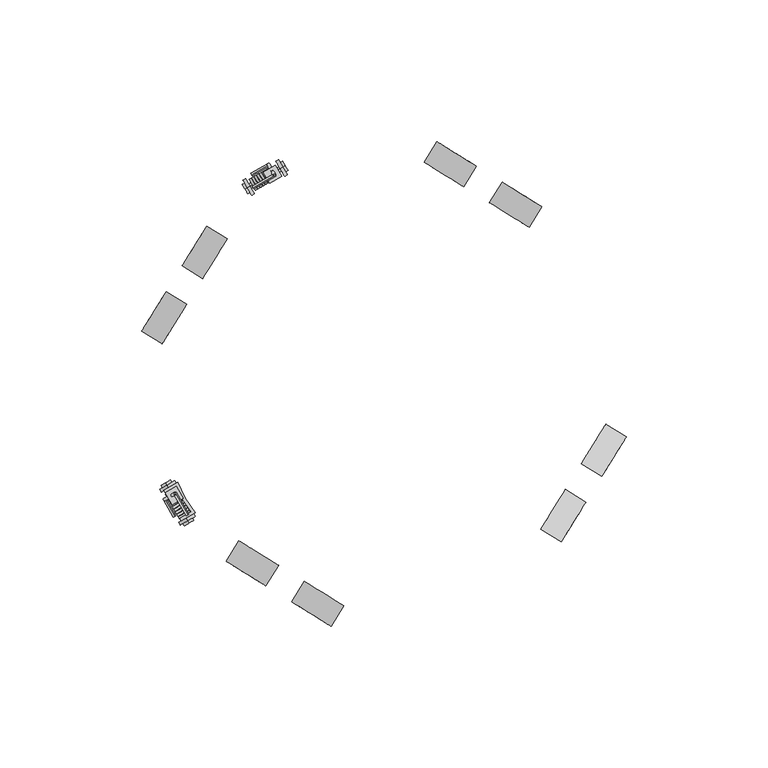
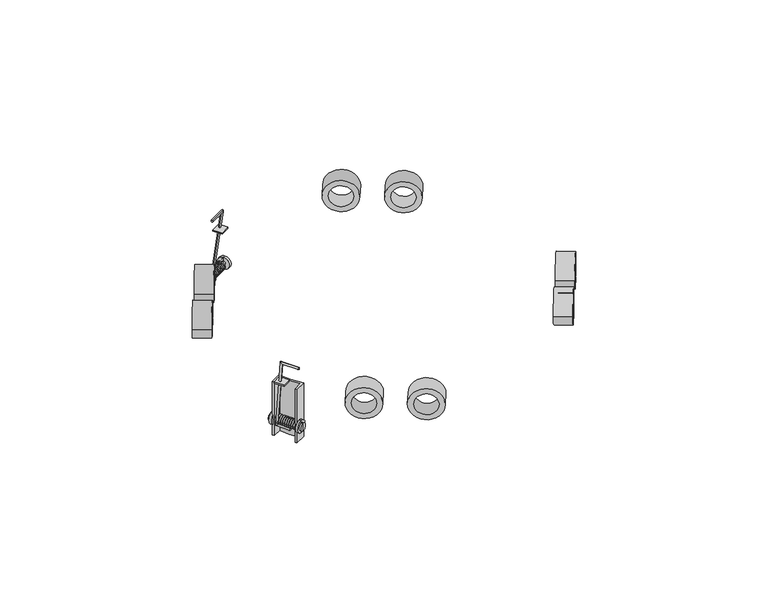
"""IFC4 building model written with IfcOpenShell, lengths in millimetres: proxy geometry, 230208 BIM Data_CSE 56T VA : CSE 56T VA."""

from ifc_helpers import new_model, si_unit, point, frame, frame_2d, origin, place, context, project, spatial, polyline, circle_curve, ellipse_curve, trimmed, segment, composite_curve, outline, extrude, source, transform, mapped, element, save
from ifc_brep_helpers import plane_surface, cylinder_surface, advanced_brep


def communication_devices_72cecc17(model_context):
    return source(origin(), model_context, "Body", "SolidModel", [
        extrude(outline(composite_curve([segment(trimmed(circle_curve(frame_2d((0.0, -8.2290649)), 8.2290649), [point((0.0, -16.4581297))], [point((0.0, 0.0))], False, "CARTESIAN"), True, "CONTINUOUS"), segment(trimmed(circle_curve(frame_2d((0.0, -8.2290649)), 8.2290649), [point((0.0, 0.0))], [point((0.0, -16.4581297))], False, "CARTESIAN"), True, "CONTINUOUS")], self_intersect=False), holes=[composite_curve([segment(trimmed(circle_curve(frame_2d((0.0, -8.2290649)), 5.4906275), [point((0.0, -13.7196924))], [point((0.0, -2.7384374))], True, "CARTESIAN"), True, "CONTINUOUS"), segment(trimmed(circle_curve(frame_2d((0.0, -8.2290649)), 5.4906275), [point((0.0, -2.7384374))], [point((0.0, -13.7196924))], True, "CARTESIAN"), True, "CONTINUOUS")], self_intersect=False)]), frame((37.2328131, 64.053088, 30.2701659), z_axis=(0.5266312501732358, 0.8500938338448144, 0.0), x_axis=(0.0, 0.0, -1.0)), (0.0, 0.0, 1.0), 8.4750681),
        extrude(outline(composite_curve([segment(trimmed(circle_curve(frame_2d((0.0, 18.9214838)), 8.2290649), [point((0.0, 10.692419))], [point((0.0, 27.1505488))], False, "CARTESIAN"), True, "CONTINUOUS"), segment(trimmed(circle_curve(frame_2d((0.0, 18.9214838)), 8.2290649), [point((0.0, 27.1505488))], [point((0.0, 10.692419))], False, "CARTESIAN"), True, "CONTINUOUS")], self_intersect=False), holes=[composite_curve([segment(trimmed(circle_curve(frame_2d((0.0, 18.9214838)), 5.4906275), [point((0.0, 13.4308564))], [point((0.0, 24.4121114))], True, "CARTESIAN"), True, "CONTINUOUS"), segment(trimmed(circle_curve(frame_2d((0.0, 18.9214838)), 5.4906275), [point((0.0, 24.4121114))], [point((0.0, 13.4308564))], True, "CARTESIAN"), True, "CONTINUOUS")], self_intersect=False)]), frame((37.2328131, 64.053088, 30.2701659), z_axis=(0.5266312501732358, 0.8500938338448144, 0.0), x_axis=(0.0, 0.0, -1.0)), (0.0, 0.0, 1.0), 8.4750681),
        extrude(outline(composite_curve([segment(trimmed(circle_curve(frame_2d((0.0, -8.2290649)), 8.2290649), [point((0.0, -16.4581298))], [point((0.0, 0.0))], False, "CARTESIAN"), True, "CONTINUOUS"), segment(trimmed(circle_curve(frame_2d((0.0, -8.2290649)), 8.2290649), [point((0.0, 0.0))], [point((0.0, -16.4581298))], False, "CARTESIAN"), True, "CONTINUOUS")], self_intersect=False), holes=[composite_curve([segment(trimmed(circle_curve(frame_2d((0.0, -8.2290649)), 5.4906275), [point((0.0, -13.7196924))], [point((0.0, -2.7384374))], True, "CARTESIAN"), True, "CONTINUOUS"), segment(trimmed(circle_curve(frame_2d((0.0, -8.2290649)), 5.4906275), [point((0.0, -2.7384374))], [point((0.0, -13.7196924))], True, "CARTESIAN"), True, "CONTINUOUS")], self_intersect=False)]), frame((71.2576912, -41.6960488, 30.2701659), z_axis=(-0.8500938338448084, 0.5266312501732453, 0.0), x_axis=(0.0, 0.0, 1.0)), (0.0, 0.0, 1.0), 8.4750681),
        extrude(outline(composite_curve([segment(trimmed(circle_curve(frame_2d((0.0, 18.9214838)), 8.2290649), [point((0.0, 10.6924189))], [point((0.0, 27.1505488))], False, "CARTESIAN"), True, "CONTINUOUS"), segment(trimmed(circle_curve(frame_2d((0.0, 18.9214838)), 8.2290649), [point((0.0, 27.1505488))], [point((0.0, 10.6924189))], False, "CARTESIAN"), True, "CONTINUOUS")], self_intersect=False), holes=[composite_curve([segment(trimmed(circle_curve(frame_2d((0.0, 18.9214838)), 5.4906275), [point((0.0, 13.4308564))], [point((0.0, 24.4121113))], True, "CARTESIAN"), True, "CONTINUOUS"), segment(trimmed(circle_curve(frame_2d((0.0, 18.9214838)), 5.4906275), [point((0.0, 24.4121113))], [point((0.0, 13.4308564))], True, "CARTESIAN"), True, "CONTINUOUS")], self_intersect=False)]), frame((71.2576912, -41.6960488, 30.2701659), z_axis=(-0.8500938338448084, 0.5266312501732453, 0.0), x_axis=(0.0, 0.0, 1.0)), (0.0, 0.0, 1.0), 8.4750681),
        extrude(outline(composite_curve([segment(trimmed(circle_curve(frame_2d((0.0, -8.2290649)), 8.2290649), [point((0.0, -16.4581297))], [point((0.0, 0.0))], False, "CARTESIAN"), True, "CONTINUOUS"), segment(trimmed(circle_curve(frame_2d((0.0, -8.2290649)), 8.2290649), [point((0.0, 0.0))], [point((0.0, -16.4581297))], False, "CARTESIAN"), True, "CONTINUOUS")], self_intersect=False), holes=[composite_curve([segment(trimmed(circle_curve(frame_2d((0.0, -8.2290649)), 5.4906275), [point((0.0, -13.7196924))], [point((0.0, -2.7384374))], True, "CARTESIAN"), True, "CONTINUOUS"), segment(trimmed(circle_curve(frame_2d((0.0, -8.2290649)), 5.4906275), [point((0.0, -2.7384374))], [point((0.0, -13.7196924))], True, "CARTESIAN"), True, "CONTINUOUS")], self_intersect=False)]), frame((-64.053088, 37.2328131, 30.2701659), z_axis=(-0.8500938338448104, 0.5266312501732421, 0.0), x_axis=(0.0, 0.0, -1.0)), (0.0, 0.0, 1.0), 8.4750681),
        extrude(outline(composite_curve([segment(trimmed(circle_curve(frame_2d((0.0, 18.9214838)), 8.2290649), [point((0.0, 10.692419))], [point((0.0, 27.1505488))], False, "CARTESIAN"), True, "CONTINUOUS"), segment(trimmed(circle_curve(frame_2d((0.0, 18.9214838)), 8.2290649), [point((0.0, 27.1505488))], [point((0.0, 10.692419))], False, "CARTESIAN"), True, "CONTINUOUS")], self_intersect=False), holes=[composite_curve([segment(trimmed(circle_curve(frame_2d((0.0, 18.9214838)), 5.4906275), [point((0.0, 13.4308564))], [point((0.0, 24.4121114))], True, "CARTESIAN"), True, "CONTINUOUS"), segment(trimmed(circle_curve(frame_2d((0.0, 18.9214838)), 5.4906275), [point((0.0, 24.4121114))], [point((0.0, 13.4308564))], True, "CARTESIAN"), True, "CONTINUOUS")], self_intersect=False)]), frame((-64.053088, 37.2328131, 30.2701659), z_axis=(-0.8500938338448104, 0.5266312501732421, 0.0), x_axis=(0.0, 0.0, -1.0)), (0.0, 0.0, 1.0), 8.4750681),
        extrude(outline(composite_curve([segment(trimmed(circle_curve(frame_2d((0.0, -8.2290649)), 8.2290649), [point((0.0, -16.4581298))], [point((0.0, 0.0))], False, "CARTESIAN"), True, "CONTINUOUS"), segment(trimmed(circle_curve(frame_2d((0.0, -8.2290649)), 8.2290649), [point((0.0, 0.0))], [point((0.0, -16.4581298))], False, "CARTESIAN"), True, "CONTINUOUS")], self_intersect=False), holes=[composite_curve([segment(trimmed(circle_curve(frame_2d((0.0, -8.2290649)), 5.4906275), [point((0.0, -13.7196924))], [point((0.0, -2.7384374))], True, "CARTESIAN"), True, "CONTINUOUS"), segment(trimmed(circle_curve(frame_2d((0.0, -8.2290649)), 5.4906275), [point((0.0, -2.7384374))], [point((0.0, -13.7196924))], True, "CARTESIAN"), True, "CONTINUOUS")], self_intersect=False)]), frame((-41.6960488, -71.2576912, 30.2701659), z_axis=(0.526631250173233, 0.8500938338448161, 0.0), x_axis=(0.0, 0.0, 1.0)), (0.0, 0.0, 1.0), 8.4750681),
        extrude(outline(composite_curve([segment(trimmed(circle_curve(frame_2d((0.0, 18.9214838)), 8.2290649), [point((0.0, 10.6924189))], [point((0.0, 27.1505488))], False, "CARTESIAN"), True, "CONTINUOUS"), segment(trimmed(circle_curve(frame_2d((0.0, 18.9214838)), 8.2290649), [point((0.0, 27.1505488))], [point((0.0, 10.6924189))], False, "CARTESIAN"), True, "CONTINUOUS")], self_intersect=False), holes=[composite_curve([segment(trimmed(circle_curve(frame_2d((0.0, 18.9214838)), 5.4906275), [point((0.0, 13.4308564))], [point((0.0, 24.4121113))], True, "CARTESIAN"), True, "CONTINUOUS"), segment(trimmed(circle_curve(frame_2d((0.0, 18.9214838)), 5.4906275), [point((0.0, 24.4121113))], [point((0.0, 13.4308564))], True, "CARTESIAN"), True, "CONTINUOUS")], self_intersect=False)]), frame((-41.6960488, -71.2576912, 30.2701659), z_axis=(0.526631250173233, 0.8500938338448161, 0.0), x_axis=(0.0, 0.0, 1.0)), (0.0, 0.0, 1.0), 8.4750681),
        extrude(outline(polyline([(-74.7753419, -42.6612156), (-77.2753419, -38.3310886), (-73.3219581, -36.0486014), (-70.8219581, -40.3787284), (-74.7753419, -42.6612156)])), frame((0.0, 0.0, 33.4827769), z_axis=(0.0, 0.0, 1.0), x_axis=(1.0, 0.0, 0.0)), (0.0, 0.0, 1.0), 0.7602318),
        advanced_brep(
        [(-69.3327417, -46.1831034, 43.8165144), (-69.4504076, -46.2510379, 42.8257876), (-73.5606596, -39.1318727, 42.8257876), (-73.9429936, -38.1979129, 43.8165144), (-77.6682809, -40.3487085, 12.4502375), (-77.050615, -41.1467994, 13.4409643), (-73.9762993, -46.7434081, 12.4502375), (-73.8586334, -46.6754737, 13.4409643)],
        [
            (0, 1, circle_curve(frame((-69.3915747, -46.2170707, 43.321151), z_axis=(0.49999999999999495, -0.8660254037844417, 0.0), x_axis=(-0.11766592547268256, -0.06793445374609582, -0.9907268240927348)), 0.5)),
            (1, 0, circle_curve(frame((-69.3915747, -46.2170707, 43.321151), z_axis=(0.49999999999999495, -0.8660254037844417, 0.0), x_axis=(-0.11766592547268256, -0.06793445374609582, -0.9907268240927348)), 0.5)),
            (2, 3, ellipse_curve(frame((-73.7518266, -38.6648928, 43.321151), z_axis=(-0.4367557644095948, 0.5643355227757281, -0.700549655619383), x_axis=(-0.2703510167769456, 0.660409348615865, 0.7005496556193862)), 0.7071068, 0.5)),
            (3, 4),
            (4, 5, ellipse_curve(frame((-77.3594479, -40.747754, 12.9456009), z_axis=(-0.27035101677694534, 0.6604093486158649, 0.7005496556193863), x_axis=(0.43675576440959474, -0.5643355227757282, 0.700549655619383)), 0.7071068, 0.5)),
            (5, 2),
            (3, 2, ellipse_curve(frame((-73.7518266, -38.6648928, 43.321151), z_axis=(-0.4367557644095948, 0.5643355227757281, -0.700549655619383), x_axis=(-0.2703510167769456, 0.660409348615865, 0.7005496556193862)), 0.7071068, 0.5)),
            (5, 4, ellipse_curve(frame((-77.3594479, -40.747754, 12.9456009), z_axis=(-0.27035101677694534, 0.6604093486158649, 0.7005496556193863), x_axis=(0.43675576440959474, -0.5643355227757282, 0.700549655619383)), 0.7071068, 0.5)),
            (6, 7, circle_curve(frame((-73.9174664, -46.7094409, 12.9456009), z_axis=(0.4999999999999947, -0.8660254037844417, 0.0), x_axis=(0.11766592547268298, 0.06793445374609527, 0.9907268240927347)), 0.5)),
            (7, 6, circle_curve(frame((-73.9174664, -46.7094409, 12.9456009), z_axis=(0.4999999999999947, -0.8660254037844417, 0.0), x_axis=(0.11766592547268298, 0.06793445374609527, 0.9907268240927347)), 0.5)),
            (4, 6),
            (7, 5),
            (0, 3),
            (2, 1),
        ],
        [
            plane_surface(frame((-30.8712757, -23.9773656, 36.0923621), z_axis=(0.49999999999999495, -0.8660254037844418, 0.0), x_axis=(-0.857994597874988, -0.4953634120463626, 0.13586890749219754))),
            cylinder_surface(frame((-73.8834225, -38.7408698, 42.2131358), z_axis=(0.11766592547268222, 0.06793445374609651, 0.9907268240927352), x_axis=(0.4999999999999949, -0.8660254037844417, 0.0)), 0.5),
            plane_surface(frame((-35.1339754, -24.317782, 7.9328424), z_axis=(0.49999999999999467, -0.8660254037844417, 0.0), x_axis=(-0.857994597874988, -0.4953634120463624, 0.1358689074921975))),
            cylinder_surface(frame((-76.8002548, -41.7163048, 12.9456009), z_axis=(-0.4999999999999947, 0.8660254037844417, 0.0), x_axis=(0.11766592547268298, 0.06793445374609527, 0.9907268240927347)), 0.5),
            cylinder_surface(frame((-69.3915747, -46.2170707, 43.321151), z_axis=(0.49999999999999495, -0.8660254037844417, 0.0), x_axis=(-0.11766592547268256, -0.06793445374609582, -0.9907268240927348)), 0.5),
        ],
        [
            (0, [[1, 2]]),
            (1, [[3, 4, 5, 6]]),
            (1, [[7, -6, 8, -4]]),
            (2, [[9, 10]]),
            (3, [[-5, 11, -10, 12]]),
            (3, [[-8, -12, -9, -11]]),
            (4, [[-1, 13, -3, 14]]),
            (4, [[-2, -14, -7, -13]]),
        ],
    ),
        advanced_brep(
        [(-76.56154, -35.6613388, 10.6517111), (-76.56154, -35.6613388, 16.869995), (-76.0116573, -36.6137635, 16.869995), (-76.0116573, -36.6137635, 10.6517111), (-76.56154, -35.6613388, 11.8431266), (-76.56154, -35.6613388, 15.6785795), (-77.034404, -34.8423143, 11.8431266), (-77.034404, -34.8423143, 15.6785795), (-77.034404, -34.8423143, 13.760853), (-68.823547, -49.0639357, 11.8431266), (-68.823547, -49.0639357, 15.6785795), (-68.823547, -49.0639357, 13.760853), (-69.2964111, -48.2449112, 11.8431266), (-69.2964111, -48.2449112, 15.6785795), (-69.2964111, -48.2449112, 10.6517111), (-69.2964111, -48.2449112, 16.869995), (-69.8462937, -47.2924865, 10.6517111), (-69.8462937, -47.2924865, 16.869995), (-69.8462937, -47.2924865, 12.8676654), (-69.8462937, -47.2924865, 14.6540407), (-76.0116573, -36.6137635, 12.8676654), (-76.0116573, -36.6137635, 14.6540407)],
        [
            (0, 1, circle_curve(frame((-76.56154, -35.6613388, 13.760853), z_axis=(0.4999999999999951, -0.8660254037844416, 0.0), x_axis=(0.0, 0.0, 1.0000000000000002)), 3.109142)),
            (1, 2),
            (2, 3, circle_curve(frame((-76.0116573, -36.6137635, 13.760853), z_axis=(-0.4999999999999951, 0.8660254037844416, 0.0), x_axis=(0.0, 0.0, 1.0000000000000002)), 3.109142)),
            (3, 0),
            (1, 0, circle_curve(frame((-76.56154, -35.6613388, 13.760853), z_axis=(0.4999999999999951, -0.8660254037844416, 0.0), x_axis=(0.0, 0.0, 1.0000000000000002)), 3.109142)),
            (3, 2, circle_curve(frame((-76.0116573, -36.6137635, 13.760853), z_axis=(-0.4999999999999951, 0.8660254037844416, 0.0), x_axis=(0.0, 0.0, 1.0000000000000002)), 3.109142)),
            (4, 5, circle_curve(frame((-76.56154, -35.6613388, 13.760853), z_axis=(0.4999999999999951, -0.8660254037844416, 0.0), x_axis=(0.0, 0.0, 1.0000000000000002)), 1.9177265)),
            (5, 1),
            (0, 4),
            (5, 4, circle_curve(frame((-76.56154, -35.6613388, 13.760853), z_axis=(0.4999999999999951, -0.8660254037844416, 0.0), x_axis=(0.0, 0.0, 1.0000000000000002)), 1.9177265)),
            (6, 7, circle_curve(frame((-77.034404, -34.8423143, 13.760853), z_axis=(0.4999999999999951, -0.8660254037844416, 0.0), x_axis=(0.0, 0.0, 1.0000000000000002)), 1.9177265)),
            (7, 5),
            (4, 6),
            (7, 6, circle_curve(frame((-77.034404, -34.8423143, 13.760853), z_axis=(0.4999999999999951, -0.8660254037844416, 0.0), x_axis=(0.0, 0.0, 1.0000000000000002)), 1.9177265)),
            (8, 7),
            (6, 8),
            (9, 10, circle_curve(frame((-68.823547, -49.0639357, 13.760853), z_axis=(0.4999999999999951, -0.8660254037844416, 0.0), x_axis=(0.0, 0.0, 1.0000000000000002)), 1.9177265)),
            (10, 11),
            (11, 9),
            (10, 9, circle_curve(frame((-68.823547, -49.0639357, 13.760853), z_axis=(0.4999999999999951, -0.8660254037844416, 0.0), x_axis=(0.0, 0.0, 1.0000000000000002)), 1.9177265)),
            (12, 13, circle_curve(frame((-69.2964111, -48.2449112, 13.760853), z_axis=(0.4999999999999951, -0.8660254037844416, 0.0), x_axis=(0.0, 0.0, 1.0000000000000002)), 1.9177265)),
            (13, 10),
            (9, 12),
            (13, 12, circle_curve(frame((-69.2964111, -48.2449112, 13.760853), z_axis=(0.4999999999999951, -0.8660254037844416, 0.0), x_axis=(0.0, 0.0, 1.0000000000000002)), 1.9177265)),
            (14, 15, circle_curve(frame((-69.2964111, -48.2449112, 13.760853), z_axis=(0.4999999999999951, -0.8660254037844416, 0.0), x_axis=(0.0, 0.0, 1.0000000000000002)), 3.109142)),
            (15, 13),
            (12, 14),
            (15, 14, circle_curve(frame((-69.2964111, -48.2449112, 13.760853), z_axis=(0.4999999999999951, -0.8660254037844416, 0.0), x_axis=(0.0, 0.0, 1.0000000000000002)), 3.109142)),
            (16, 17, circle_curve(frame((-69.8462937, -47.2924865, 13.760853), z_axis=(0.4999999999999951, -0.8660254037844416, 0.0), x_axis=(0.0, 0.0, 1.0000000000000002)), 3.109142)),
            (17, 15),
            (14, 16),
            (17, 16, circle_curve(frame((-69.8462937, -47.2924865, 13.760853), z_axis=(0.4999999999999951, -0.8660254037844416, 0.0), x_axis=(0.0, 0.0, 1.0000000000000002)), 3.109142)),
            (18, 19, circle_curve(frame((-69.8462937, -47.2924865, 13.760853), z_axis=(0.4999999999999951, -0.8660254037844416, 0.0), x_axis=(0.0, 0.0, 1.0000000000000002)), 0.8931877)),
            (19, 17),
            (16, 18),
            (19, 18, circle_curve(frame((-69.8462937, -47.2924865, 13.760853), z_axis=(0.4999999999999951, -0.8660254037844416, 0.0), x_axis=(0.0, 0.0, 1.0000000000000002)), 0.8931877)),
            (20, 21, circle_curve(frame((-76.0116573, -36.6137635, 13.760853), z_axis=(0.4999999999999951, -0.8660254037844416, 0.0), x_axis=(0.0, 0.0, 1.0000000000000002)), 0.8931877)),
            (21, 19),
            (18, 20),
            (21, 20, circle_curve(frame((-76.0116573, -36.6137635, 13.760853), z_axis=(0.4999999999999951, -0.8660254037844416, 0.0), x_axis=(0.0, 0.0, 1.0000000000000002)), 0.8931877)),
            (2, 21),
            (20, 3),
        ],
        [
            cylinder_surface(frame((-73.279151, -41.3466032, 13.760853), z_axis=(-0.4999999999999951, 0.8660254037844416, 0.0), x_axis=(0.0, 0.0, 1.0000000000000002)), 3.109142),
            plane_surface(frame((-76.56154, -35.6613388, 13.760853), z_axis=(-0.4999999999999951, 0.8660254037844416, 0.0), x_axis=(0.0, 0.0, 1.0))),
            cylinder_surface(frame((-73.279151, -41.3466032, 13.760853), z_axis=(-0.4999999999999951, 0.8660254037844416, 0.0), x_axis=(0.0, 0.0, 1.0000000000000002)), 1.9177265),
            plane_surface(frame((-77.034404, -34.8423143, 13.760853), z_axis=(-0.4999999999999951, 0.8660254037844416, 0.0), x_axis=(0.0, 0.0, 1.0))),
            plane_surface(frame((-68.823547, -49.0639357, 13.760853), z_axis=(0.4999999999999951, -0.8660254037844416, 0.0), x_axis=(0.0, 0.0, 1.0))),
            plane_surface(frame((-69.2964111, -48.2449112, 13.760853), z_axis=(0.4999999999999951, -0.8660254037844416, 0.0), x_axis=(0.0, 0.0, 1.0))),
            plane_surface(frame((-69.8462937, -47.2924865, 13.760853), z_axis=(-0.4999999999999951, 0.8660254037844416, 0.0), x_axis=(0.0, 0.0, 1.0))),
            cylinder_surface(frame((-73.279151, -41.3466032, 13.760853), z_axis=(-0.4999999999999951, 0.8660254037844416, 0.0), x_axis=(0.0, 0.0, 1.0000000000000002)), 0.8931877),
            plane_surface(frame((-76.0116573, -36.6137635, 13.760853), z_axis=(0.4999999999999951, -0.8660254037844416, 0.0), x_axis=(0.0, 0.0, 1.0))),
        ],
        [
            (0, [[1, 2, 3, 4]]),
            (0, [[5, -4, 6, -2]]),
            (1, [[7, 8, -1, 9]]),
            (1, [[10, -9, -5, -8]]),
            (2, [[11, 12, -7, 13]]),
            (2, [[14, -13, -10, -12]]),
            (3, [[15, -11, 16]]),
            (3, [[-16, -14, -15]]),
            (4, [[17, 18, 19]]),
            (4, [[20, -19, -18]]),
            (2, [[21, 22, -17, 23]]),
            (2, [[24, -23, -20, -22]]),
            (5, [[25, 26, -21, 27]]),
            (5, [[28, -27, -24, -26]]),
            (0, [[29, 30, -25, 31]]),
            (0, [[32, -31, -28, -30]]),
            (6, [[33, 34, -29, 35]]),
            (6, [[36, -35, -32, -34]]),
            (7, [[37, 38, -33, 39]]),
            (7, [[40, -39, -36, -38]]),
            (8, [[-3, 41, -37, 42]]),
            (8, [[-6, -42, -40, -41]]),
        ],
    ),
        extrude(outline(composite_curve([segment(trimmed(circle_curve(frame_2d((0.0, -2.2114931)), 2.2114931), [point((0.0, -4.4229861))], [point((0.0, 0.0))], False, "CARTESIAN"), True, "CONTINUOUS"), segment(trimmed(circle_curve(frame_2d((0.0, -2.2114931)), 2.2114931), [point((0.0, 0.0))], [point((0.0, -4.4229861))], False, "CARTESIAN"), True, "CONTINUOUS")], self_intersect=False), holes=[composite_curve([segment(trimmed(circle_curve(frame_2d((0.0, -2.2114931)), 1.6197878), [point((0.0, -3.8312809))], [point((0.0, -0.5917052))], True, "CARTESIAN"), True, "CONTINUOUS"), segment(trimmed(circle_curve(frame_2d((0.0, -2.2114931)), 1.6197878), [point((0.0, -0.5917052))], [point((0.0, -3.8312809))], True, "CARTESIAN"), True, "CONTINUOUS")], self_intersect=False)]), frame((-68.3964913, -45.348418, 13.8879558), z_axis=(-0.49999999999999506, 0.8660254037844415, 0.0), x_axis=(0.0, 0.0, 1.0)), (0.0, 0.0, 1.0), 0.7554192),
        extrude(outline(composite_curve([segment(trimmed(circle_curve(frame_2d((0.0, -2.2114931)), 2.2114931), [point((0.0, -4.4229861))], [point((0.0, 0.0))], False, "CARTESIAN"), True, "CONTINUOUS"), segment(trimmed(circle_curve(frame_2d((0.0, -2.2114931)), 2.2114931), [point((0.0, 0.0))], [point((0.0, -4.4229861))], False, "CARTESIAN"), True, "CONTINUOUS")], self_intersect=False), holes=[composite_curve([segment(trimmed(circle_curve(frame_2d((0.0, -2.2114931)), 1.6197878), [point((0.0, -3.8312809))], [point((0.0, -0.5917052))], True, "CARTESIAN"), True, "CONTINUOUS"), segment(trimmed(circle_curve(frame_2d((0.0, -2.2114931)), 1.6197878), [point((0.0, -0.5917052))], [point((0.0, -3.8312809))], True, "CARTESIAN"), True, "CONTINUOUS")], self_intersect=False)]), frame((-68.9116497, -44.4561375, 13.8879558), z_axis=(-0.49999999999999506, 0.8660254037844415, 0.0), x_axis=(0.0, 0.0, 1.0)), (0.0, 0.0, 1.0), 0.7554192),
        extrude(outline(composite_curve([segment(trimmed(circle_curve(frame_2d((0.0, -2.2114931)), 2.2114931), [point((0.0, -4.4229861))], [point((0.0, 0.0))], False, "CARTESIAN"), True, "CONTINUOUS"), segment(trimmed(circle_curve(frame_2d((0.0, -2.2114931)), 2.2114931), [point((0.0, 0.0))], [point((0.0, -4.4229861))], False, "CARTESIAN"), True, "CONTINUOUS")], self_intersect=False), holes=[composite_curve([segment(trimmed(circle_curve(frame_2d((0.0, -2.2114931)), 1.6197878), [point((0.0, -3.8312809))], [point((0.0, -0.5917052))], True, "CARTESIAN"), True, "CONTINUOUS"), segment(trimmed(circle_curve(frame_2d((0.0, -2.2114931)), 1.6197878), [point((0.0, -0.5917052))], [point((0.0, -3.8312809))], True, "CARTESIAN"), True, "CONTINUOUS")], self_intersect=False)]), frame((-69.4268081, -43.563857, 13.8879558), z_axis=(-0.49999999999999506, 0.8660254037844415, 0.0), x_axis=(0.0, 0.0, 1.0)), (0.0, 0.0, 1.0), 0.7554192),
        extrude(outline(composite_curve([segment(trimmed(circle_curve(frame_2d((0.0, -2.211493)), 2.2114931), [point((0.0, -4.4229861))], [point((0.0, 0.0))], False, "CARTESIAN"), True, "CONTINUOUS"), segment(trimmed(circle_curve(frame_2d((0.0, -2.211493)), 2.2114931), [point((0.0, 0.0))], [point((0.0, -4.4229861))], False, "CARTESIAN"), True, "CONTINUOUS")], self_intersect=False), holes=[composite_curve([segment(trimmed(circle_curve(frame_2d((0.0, -2.211493)), 1.6197878), [point((0.0, -3.8312809))], [point((0.0, -0.5917052))], True, "CARTESIAN"), True, "CONTINUOUS"), segment(trimmed(circle_curve(frame_2d((0.0, -2.211493)), 1.6197878), [point((0.0, -0.5917052))], [point((0.0, -3.8312809))], True, "CARTESIAN"), True, "CONTINUOUS")], self_intersect=False)]), frame((-69.9419665, -42.6715765, 13.8879558), z_axis=(-0.49999999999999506, 0.8660254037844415, 0.0), x_axis=(0.0, 0.0, 1.0)), (0.0, 0.0, 1.0), 0.7554192),
        extrude(outline(composite_curve([segment(trimmed(circle_curve(frame_2d((0.0, -2.211493)), 2.2114931), [point((0.0, -4.4229861))], [point((0.0, 0.0))], False, "CARTESIAN"), True, "CONTINUOUS"), segment(trimmed(circle_curve(frame_2d((0.0, -2.211493)), 2.2114931), [point((0.0, 0.0))], [point((0.0, -4.4229861))], False, "CARTESIAN"), True, "CONTINUOUS")], self_intersect=False), holes=[composite_curve([segment(trimmed(circle_curve(frame_2d((0.0, -2.211493)), 1.6197878), [point((0.0, -3.8312809))], [point((0.0, -0.5917052))], True, "CARTESIAN"), True, "CONTINUOUS"), segment(trimmed(circle_curve(frame_2d((0.0, -2.211493)), 1.6197878), [point((0.0, -0.5917052))], [point((0.0, -3.8312809))], True, "CARTESIAN"), True, "CONTINUOUS")], self_intersect=False)]), frame((-70.4571249, -41.779296, 13.8879558), z_axis=(-0.49999999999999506, 0.8660254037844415, 0.0), x_axis=(0.0, 0.0, 1.0)), (0.0, 0.0, 1.0), 0.7554192),
        extrude(outline(composite_curve([segment(trimmed(circle_curve(frame_2d((0.0, -2.2114931)), 2.2114931), [point((0.0, -4.4229862))], [point((0.0, 0.0))], False, "CARTESIAN"), True, "CONTINUOUS"), segment(trimmed(circle_curve(frame_2d((0.0, -2.2114931)), 2.2114931), [point((0.0, 0.0))], [point((0.0, -4.4229862))], False, "CARTESIAN"), True, "CONTINUOUS")], self_intersect=False), holes=[composite_curve([segment(trimmed(circle_curve(frame_2d((0.0, -2.2114931)), 1.6197878), [point((0.0, -3.8312809))], [point((0.0, -0.5917053))], True, "CARTESIAN"), True, "CONTINUOUS"), segment(trimmed(circle_curve(frame_2d((0.0, -2.2114931)), 1.6197878), [point((0.0, -0.5917053))], [point((0.0, -3.8312809))], True, "CARTESIAN"), True, "CONTINUOUS")], self_intersect=False)]), frame((-70.9722832, -40.8870155, 13.8879558), z_axis=(-0.49999999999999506, 0.8660254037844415, 0.0), x_axis=(0.0, 0.0, 1.0)), (0.0, 0.0, 1.0), 0.7554192),
        extrude(outline(composite_curve([segment(trimmed(circle_curve(frame_2d((0.0, -2.2114931)), 2.2114931), [point((0.0, -4.4229861))], [point((0.0, 0.0))], False, "CARTESIAN"), True, "CONTINUOUS"), segment(trimmed(circle_curve(frame_2d((0.0, -2.2114931)), 2.2114931), [point((0.0, 0.0))], [point((0.0, -4.4229861))], False, "CARTESIAN"), True, "CONTINUOUS")], self_intersect=False), holes=[composite_curve([segment(trimmed(circle_curve(frame_2d((0.0, -2.2114931)), 1.6197878), [point((0.0, -3.8312809))], [point((0.0, -0.5917053))], True, "CARTESIAN"), True, "CONTINUOUS"), segment(trimmed(circle_curve(frame_2d((0.0, -2.2114931)), 1.6197878), [point((0.0, -0.5917053))], [point((0.0, -3.8312809))], True, "CARTESIAN"), True, "CONTINUOUS")], self_intersect=False)]), frame((-71.4874416, -39.994735, 13.8879558), z_axis=(-0.49999999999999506, 0.8660254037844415, 0.0), x_axis=(0.0, 0.0, 1.0)), (0.0, 0.0, 1.0), 0.7554192),
        extrude(outline(composite_curve([segment(trimmed(circle_curve(frame_2d((0.0, -2.2114931)), 2.2114931), [point((0.0, -4.4229861))], [point((0.0, 0.0))], False, "CARTESIAN"), True, "CONTINUOUS"), segment(trimmed(circle_curve(frame_2d((0.0, -2.2114931)), 2.2114931), [point((0.0, 0.0))], [point((0.0, -4.4229861))], False, "CARTESIAN"), True, "CONTINUOUS")], self_intersect=False), holes=[composite_curve([segment(trimmed(circle_curve(frame_2d((0.0, -2.2114931)), 1.6197878), [point((0.0, -3.8312809))], [point((0.0, -0.5917053))], True, "CARTESIAN"), True, "CONTINUOUS"), segment(trimmed(circle_curve(frame_2d((0.0, -2.2114931)), 1.6197878), [point((0.0, -0.5917053))], [point((0.0, -3.8312809))], True, "CARTESIAN"), True, "CONTINUOUS")], self_intersect=False)]), frame((-72.0026, -39.1024545, 13.8879558), z_axis=(-0.49999999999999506, 0.8660254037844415, 0.0), x_axis=(0.0, 0.0, 1.0)), (0.0, 0.0, 1.0), 0.7554192),
        extrude(outline(composite_curve([segment(trimmed(circle_curve(frame_2d((0.0, -2.2114931)), 2.2114931), [point((0.0, -4.4229861))], [point((0.0, 0.0))], False, "CARTESIAN"), True, "CONTINUOUS"), segment(trimmed(circle_curve(frame_2d((0.0, -2.2114931)), 2.2114931), [point((0.0, 0.0))], [point((0.0, -4.4229861))], False, "CARTESIAN"), True, "CONTINUOUS")], self_intersect=False), holes=[composite_curve([segment(trimmed(circle_curve(frame_2d((0.0, -2.2114931)), 1.6197878), [point((0.0, -3.8312809))], [point((0.0, -0.5917053))], True, "CARTESIAN"), True, "CONTINUOUS"), segment(trimmed(circle_curve(frame_2d((0.0, -2.2114931)), 1.6197878), [point((0.0, -0.5917053))], [point((0.0, -3.8312809))], True, "CARTESIAN"), True, "CONTINUOUS")], self_intersect=False)]), frame((-72.5177584, -38.210174, 13.8879558), z_axis=(-0.49999999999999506, 0.8660254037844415, 0.0), x_axis=(0.0, 0.0, 1.0)), (0.0, 0.0, 1.0), 0.7554192),
        extrude(outline(composite_curve([segment(trimmed(circle_curve(frame_2d((0.0, -2.2114931)), 2.2114931), [point((0.0, -4.4229861))], [point((0.0, 0.0))], False, "CARTESIAN"), True, "CONTINUOUS"), segment(trimmed(circle_curve(frame_2d((0.0, -2.2114931)), 2.2114931), [point((0.0, 0.0))], [point((0.0, -4.4229861))], False, "CARTESIAN"), True, "CONTINUOUS")], self_intersect=False), holes=[composite_curve([segment(trimmed(circle_curve(frame_2d((0.0, -2.2114931)), 1.6197878), [point((0.0, -3.8312809))], [point((0.0, -0.5917053))], True, "CARTESIAN"), True, "CONTINUOUS"), segment(trimmed(circle_curve(frame_2d((0.0, -2.2114931)), 1.6197878), [point((0.0, -0.5917053))], [point((0.0, -3.8312809))], True, "CARTESIAN"), True, "CONTINUOUS")], self_intersect=False)]), frame((-73.0329168, -37.3178935, 13.8879558), z_axis=(-0.49999999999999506, 0.8660254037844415, 0.0), x_axis=(0.0, 0.0, 1.0)), (0.0, 0.0, 1.0), 0.7554192),
        extrude(outline(composite_curve([segment(trimmed(circle_curve(frame_2d((0.0, -2.2114931)), 2.2114931), [point((0.0, -4.4229861))], [point((0.0, 0.0))], False, "CARTESIAN"), True, "CONTINUOUS"), segment(trimmed(circle_curve(frame_2d((0.0, -2.2114931)), 2.2114931), [point((0.0, 0.0))], [point((0.0, -4.4229861))], False, "CARTESIAN"), True, "CONTINUOUS")], self_intersect=False), holes=[composite_curve([segment(trimmed(circle_curve(frame_2d((0.0, -2.2114931)), 1.6197878), [point((0.0, -3.8312809))], [point((0.0, -0.5917053))], True, "CARTESIAN"), True, "CONTINUOUS"), segment(trimmed(circle_curve(frame_2d((0.0, -2.2114931)), 1.6197878), [point((0.0, -0.5917053))], [point((0.0, -3.8312809))], True, "CARTESIAN"), True, "CONTINUOUS")], self_intersect=False)]), frame((-73.0329168, -37.3178935, 13.8879558), z_axis=(-0.49999999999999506, 0.8660254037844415, 0.0), x_axis=(0.0, 0.0, 1.0)), (0.0, 0.0, 1.0), 0.7554192),
        extrude(outline(composite_curve([segment(trimmed(circle_curve(frame_2d((-33.28125, -19.0625)), 42.496521), [point((-72.7776235, -34.7465932))], [point((-66.6122599, -45.4253162))], True, "CARTESIAN"), True, "CONTINUOUS"), segment(polyline([(-66.6122599, -45.4253162), (-71.5376808, -48.2690092), (-72.0153859, -47.4415997), (-67.9749175, -45.1088342)]), True, "CONTINUOUS"), segment(trimmed(circle_curve(frame_2d((-48.7128243, -27.9989402)), 25.7638644), [point((-67.9749175, -45.1088342))], [point((-73.2083596, -35.9830153))], False, "CARTESIAN"), True, "CONTINUOUS"), segment(polyline([(-73.2083596, -35.9830153), (-77.2753419, -38.3310886), (-77.7030443, -37.5902863), (-72.7776235, -34.7465932)]), True, "CONTINUOUS")], self_intersect=False)), frame((0.0, 0.0, 5.7345004), z_axis=(0.0, 0.0, 1.0), x_axis=(1.0, 0.0, 0.0)), (0.0, 0.0, 1.0), 28.5085083),
        extrude(outline(polyline([(-42.6612156, 74.7753419), (-38.3310886, 77.2753419), (-36.0486014, 73.3219581), (-40.3787284, 70.8219581), (-42.6612156, 74.7753419)])), frame((0.0, 0.0, 33.4827769), z_axis=(0.0, 0.0, 1.0), x_axis=(1.0, 0.0, 0.0)), (0.0, 0.0, 1.0), 0.7602318),
        advanced_brep(
        [(-46.1831034, 69.3327417, 43.8165144), (-46.2510379, 69.4504076, 42.8257876), (-39.1318727, 73.5606596, 42.8257876), (-38.1979129, 73.9429936, 43.8165144), (-40.3487085, 77.6682809, 12.4502375), (-41.1467994, 77.050615, 13.4409643), (-46.7434081, 73.9762993, 12.4502375), (-46.6754737, 73.8586334, 13.4409643)],
        [
            (0, 1, circle_curve(frame((-46.2170707, 69.3915747, 43.321151), z_axis=(-0.866025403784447, -0.49999999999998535, 0.0), x_axis=(-0.06793445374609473, 0.11766592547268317, -0.9907268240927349)), 0.5)),
            (1, 0, circle_curve(frame((-46.2170707, 69.3915747, 43.321151), z_axis=(-0.866025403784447, -0.49999999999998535, 0.0), x_axis=(-0.06793445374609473, 0.11766592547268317, -0.9907268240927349)), 0.5)),
            (2, 3, ellipse_curve(frame((-38.6648928, 73.7518266, 43.321151), z_axis=(0.5643355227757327, 0.4367557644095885, -0.7005496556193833), x_axis=(0.6604093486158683, 0.2703510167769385, 0.7005496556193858)), 0.7071068, 0.5)),
            (3, 4),
            (4, 5, ellipse_curve(frame((-40.747754, 77.3594479, 12.9456009), z_axis=(0.6604093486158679, 0.2703510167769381, 0.7005496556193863), x_axis=(-0.564335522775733, -0.43675576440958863, 0.7005496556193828)), 0.7071068, 0.5)),
            (5, 2),
            (3, 2, ellipse_curve(frame((-38.6648928, 73.7518266, 43.321151), z_axis=(0.5643355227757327, 0.4367557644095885, -0.7005496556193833), x_axis=(0.6604093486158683, 0.2703510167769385, 0.7005496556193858)), 0.7071068, 0.5)),
            (5, 4, ellipse_curve(frame((-40.747754, 77.3594479, 12.9456009), z_axis=(0.6604093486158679, 0.2703510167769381, 0.7005496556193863), x_axis=(-0.564335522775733, -0.43675576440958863, 0.7005496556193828)), 0.7071068, 0.5)),
            (6, 7, circle_curve(frame((-46.7094409, 73.9174664, 12.9456009), z_axis=(-0.8660254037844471, -0.49999999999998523, 0.0), x_axis=(0.06793445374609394, -0.11766592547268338, 0.9907268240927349)), 0.5)),
            (7, 6, circle_curve(frame((-46.7094409, 73.9174664, 12.9456009), z_axis=(-0.8660254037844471, -0.49999999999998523, 0.0), x_axis=(0.06793445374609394, -0.11766592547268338, 0.9907268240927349)), 0.5)),
            (4, 6),
            (7, 5),
            (0, 3),
            (2, 1),
        ],
        [
            plane_surface(frame((-23.9773656, 30.8712757, 36.0923621), z_axis=(-0.8660254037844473, -0.4999999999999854, 0.0), x_axis=(-0.49536341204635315, 0.8579945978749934, 0.13586890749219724))),
            cylinder_surface(frame((-38.7408698, 73.8834225, 42.2131358), z_axis=(0.06793445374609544, -0.11766592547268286, 0.9907268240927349), x_axis=(-0.8660254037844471, -0.4999999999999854, 0.0)), 0.5),
            plane_surface(frame((-24.317782, 35.1339754, 7.9328424), z_axis=(-0.8660254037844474, -0.49999999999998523, 0.0), x_axis=(-0.4953634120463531, 0.8579945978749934, 0.13586890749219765))),
            cylinder_surface(frame((-41.7163048, 76.8002548, 12.9456009), z_axis=(0.8660254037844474, 0.49999999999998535, 0.0), x_axis=(0.06793445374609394, -0.11766592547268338, 0.9907268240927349)), 0.5),
            cylinder_surface(frame((-46.2170707, 69.3915747, 43.321151), z_axis=(-0.8660254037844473, -0.49999999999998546, 0.0), x_axis=(-0.06793445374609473, 0.11766592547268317, -0.9907268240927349)), 0.5),
        ],
        [
            (0, [[1, 2]]),
            (1, [[3, 4, 5, 6]]),
            (1, [[7, -6, 8, -4]]),
            (2, [[9, 10]]),
            (3, [[-5, 11, -10, 12]]),
            (3, [[-8, -12, -9, -11]]),
            (4, [[-1, 13, -3, 14]]),
            (4, [[-2, -14, -7, -13]]),
        ],
    ),
        advanced_brep(
        [(-35.6613388, 76.56154, 10.6517111), (-35.6613388, 76.56154, 16.869995), (-36.6137635, 76.0116573, 16.869995), (-36.6137635, 76.0116573, 10.6517111), (-35.6613388, 76.56154, 11.8431266), (-35.6613388, 76.56154, 15.6785795), (-34.8423143, 77.034404, 11.8431266), (-34.8423143, 77.034404, 15.6785795), (-34.8423143, 77.034404, 13.760853), (-49.0639357, 68.823547, 11.8431266), (-49.0639357, 68.823547, 15.6785795), (-49.0639357, 68.823547, 13.760853), (-48.2449112, 69.2964111, 11.8431266), (-48.2449112, 69.2964111, 15.6785795), (-48.2449112, 69.2964111, 10.6517111), (-48.2449112, 69.2964111, 16.869995), (-47.2924865, 69.8462937, 10.6517111), (-47.2924865, 69.8462937, 16.869995), (-47.2924865, 69.8462937, 12.8676654), (-47.2924865, 69.8462937, 14.6540407), (-36.6137635, 76.0116573, 12.8676654), (-36.6137635, 76.0116573, 14.6540407)],
        [
            (0, 1, circle_curve(frame((-35.6613388, 76.56154, 13.760853), z_axis=(-0.866025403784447, -0.4999999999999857, 0.0), x_axis=(0.0, 0.0, 1.0000000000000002)), 3.109142)),
            (1, 2),
            (2, 3, circle_curve(frame((-36.6137635, 76.0116573, 13.760853), z_axis=(0.866025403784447, 0.4999999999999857, 0.0), x_axis=(0.0, 0.0, 1.0000000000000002)), 3.109142)),
            (3, 0),
            (1, 0, circle_curve(frame((-35.6613388, 76.56154, 13.760853), z_axis=(-0.866025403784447, -0.4999999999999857, 0.0), x_axis=(0.0, 0.0, 1.0000000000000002)), 3.109142)),
            (3, 2, circle_curve(frame((-36.6137635, 76.0116573, 13.760853), z_axis=(0.866025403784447, 0.4999999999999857, 0.0), x_axis=(0.0, 0.0, 1.0000000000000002)), 3.109142)),
            (4, 5, circle_curve(frame((-35.6613388, 76.56154, 13.760853), z_axis=(-0.866025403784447, -0.4999999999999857, 0.0), x_axis=(0.0, 0.0, 1.0000000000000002)), 1.9177265)),
            (5, 1),
            (0, 4),
            (5, 4, circle_curve(frame((-35.6613388, 76.56154, 13.760853), z_axis=(-0.866025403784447, -0.4999999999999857, 0.0), x_axis=(0.0, 0.0, 1.0000000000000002)), 1.9177265)),
            (6, 7, circle_curve(frame((-34.8423143, 77.034404, 13.760853), z_axis=(-0.866025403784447, -0.4999999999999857, 0.0), x_axis=(0.0, 0.0, 1.0000000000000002)), 1.9177265)),
            (7, 5),
            (4, 6),
            (7, 6, circle_curve(frame((-34.8423143, 77.034404, 13.760853), z_axis=(-0.866025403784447, -0.4999999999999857, 0.0), x_axis=(0.0, 0.0, 1.0000000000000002)), 1.9177265)),
            (8, 7),
            (6, 8),
            (9, 10, circle_curve(frame((-49.0639357, 68.823547, 13.760853), z_axis=(-0.866025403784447, -0.4999999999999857, 0.0), x_axis=(0.0, 0.0, 1.0000000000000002)), 1.9177265)),
            (10, 11),
            (11, 9),
            (10, 9, circle_curve(frame((-49.0639357, 68.823547, 13.760853), z_axis=(-0.866025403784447, -0.4999999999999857, 0.0), x_axis=(0.0, 0.0, 1.0000000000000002)), 1.9177265)),
            (12, 13, circle_curve(frame((-48.2449112, 69.2964111, 13.760853), z_axis=(-0.866025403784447, -0.4999999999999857, 0.0), x_axis=(0.0, 0.0, 1.0000000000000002)), 1.9177265)),
            (13, 10),
            (9, 12),
            (13, 12, circle_curve(frame((-48.2449112, 69.2964111, 13.760853), z_axis=(-0.866025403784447, -0.4999999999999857, 0.0), x_axis=(0.0, 0.0, 1.0000000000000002)), 1.9177265)),
            (14, 15, circle_curve(frame((-48.2449112, 69.2964111, 13.760853), z_axis=(-0.866025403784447, -0.4999999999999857, 0.0), x_axis=(0.0, 0.0, 1.0000000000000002)), 3.109142)),
            (15, 13),
            (12, 14),
            (15, 14, circle_curve(frame((-48.2449112, 69.2964111, 13.760853), z_axis=(-0.866025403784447, -0.4999999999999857, 0.0), x_axis=(0.0, 0.0, 1.0000000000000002)), 3.109142)),
            (16, 17, circle_curve(frame((-47.2924865, 69.8462937, 13.760853), z_axis=(-0.866025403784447, -0.4999999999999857, 0.0), x_axis=(0.0, 0.0, 1.0000000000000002)), 3.109142)),
            (17, 15),
            (14, 16),
            (17, 16, circle_curve(frame((-47.2924865, 69.8462937, 13.760853), z_axis=(-0.866025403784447, -0.4999999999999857, 0.0), x_axis=(0.0, 0.0, 1.0000000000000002)), 3.109142)),
            (18, 19, circle_curve(frame((-47.2924865, 69.8462937, 13.760853), z_axis=(-0.866025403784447, -0.4999999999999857, 0.0), x_axis=(0.0, 0.0, 1.0000000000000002)), 0.8931877)),
            (19, 17),
            (16, 18),
            (19, 18, circle_curve(frame((-47.2924865, 69.8462937, 13.760853), z_axis=(-0.866025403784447, -0.4999999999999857, 0.0), x_axis=(0.0, 0.0, 1.0000000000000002)), 0.8931877)),
            (20, 21, circle_curve(frame((-36.6137635, 76.0116573, 13.760853), z_axis=(-0.866025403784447, -0.4999999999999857, 0.0), x_axis=(0.0, 0.0, 1.0000000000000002)), 0.8931877)),
            (21, 19),
            (18, 20),
            (21, 20, circle_curve(frame((-36.6137635, 76.0116573, 13.760853), z_axis=(-0.866025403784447, -0.4999999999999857, 0.0), x_axis=(0.0, 0.0, 1.0000000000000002)), 0.8931877)),
            (2, 21),
            (20, 3),
        ],
        [
            cylinder_surface(frame((-41.3466032, 73.279151, 13.760853), z_axis=(0.866025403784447, 0.4999999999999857, 0.0), x_axis=(0.0, 0.0, 1.0000000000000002)), 3.109142),
            plane_surface(frame((-35.6613388, 76.56154, 13.760853), z_axis=(0.866025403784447, 0.4999999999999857, 0.0), x_axis=(0.0, 0.0, 1.0))),
            cylinder_surface(frame((-41.3466032, 73.279151, 13.760853), z_axis=(0.866025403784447, 0.4999999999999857, 0.0), x_axis=(0.0, 0.0, 1.0000000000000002)), 1.9177265),
            plane_surface(frame((-34.8423143, 77.034404, 13.760853), z_axis=(0.866025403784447, 0.4999999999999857, 0.0), x_axis=(0.0, 0.0, 1.0))),
            plane_surface(frame((-49.0639357, 68.823547, 13.760853), z_axis=(-0.866025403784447, -0.4999999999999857, 0.0), x_axis=(0.0, 0.0, 1.0))),
            plane_surface(frame((-48.2449112, 69.2964111, 13.760853), z_axis=(-0.866025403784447, -0.4999999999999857, 0.0), x_axis=(0.0, 0.0, 1.0))),
            plane_surface(frame((-47.2924865, 69.8462937, 13.760853), z_axis=(0.866025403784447, 0.4999999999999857, 0.0), x_axis=(0.0, 0.0, 1.0))),
            cylinder_surface(frame((-41.3466032, 73.279151, 13.760853), z_axis=(0.866025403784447, 0.4999999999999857, 0.0), x_axis=(0.0, 0.0, 1.0000000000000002)), 0.8931877),
            plane_surface(frame((-36.6137635, 76.0116573, 13.760853), z_axis=(-0.866025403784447, -0.4999999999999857, 0.0), x_axis=(0.0, 0.0, 1.0))),
        ],
        [
            (0, [[1, 2, 3, 4]]),
            (0, [[5, -4, 6, -2]]),
            (1, [[7, 8, -1, 9]]),
            (1, [[10, -9, -5, -8]]),
            (2, [[11, 12, -7, 13]]),
            (2, [[14, -13, -10, -12]]),
            (3, [[15, -11, 16]]),
            (3, [[-16, -14, -15]]),
            (4, [[17, 18, 19]]),
            (4, [[20, -19, -18]]),
            (2, [[21, 22, -17, 23]]),
            (2, [[24, -23, -20, -22]]),
            (5, [[25, 26, -21, 27]]),
            (5, [[28, -27, -24, -26]]),
            (0, [[29, 30, -25, 31]]),
            (0, [[32, -31, -28, -30]]),
            (6, [[33, 34, -29, 35]]),
            (6, [[36, -35, -32, -34]]),
            (7, [[37, 38, -33, 39]]),
            (7, [[40, -39, -36, -38]]),
            (8, [[-3, 41, -37, 42]]),
            (8, [[-6, -42, -40, -41]]),
        ],
    ),
        extrude(outline(composite_curve([segment(trimmed(circle_curve(frame_2d((0.0, -2.2114931)), 2.2114931), [point((0.0, -4.4229861))], [point((0.0, 0.0))], False, "CARTESIAN"), True, "CONTINUOUS"), segment(trimmed(circle_curve(frame_2d((0.0, -2.2114931)), 2.2114931), [point((0.0, 0.0))], [point((0.0, -4.4229861))], False, "CARTESIAN"), True, "CONTINUOUS")], self_intersect=False), holes=[composite_curve([segment(trimmed(circle_curve(frame_2d((0.0, -2.2114931)), 1.6197878), [point((0.0, -3.8312809))], [point((0.0, -0.5917052))], True, "CARTESIAN"), True, "CONTINUOUS"), segment(trimmed(circle_curve(frame_2d((0.0, -2.2114931)), 1.6197878), [point((0.0, -0.5917052))], [point((0.0, -3.8312809))], True, "CARTESIAN"), True, "CONTINUOUS")], self_intersect=False)]), frame((-45.348418, 68.3964913, 13.8879558), z_axis=(0.866025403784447, 0.4999999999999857, 0.0), x_axis=(0.0, 0.0, 1.0)), (0.0, 0.0, 1.0), 0.7554192),
        extrude(outline(composite_curve([segment(trimmed(circle_curve(frame_2d((0.0, -2.2114931)), 2.2114931), [point((0.0, -4.4229861))], [point((0.0, 0.0))], False, "CARTESIAN"), True, "CONTINUOUS"), segment(trimmed(circle_curve(frame_2d((0.0, -2.2114931)), 2.2114931), [point((0.0, 0.0))], [point((0.0, -4.4229861))], False, "CARTESIAN"), True, "CONTINUOUS")], self_intersect=False), holes=[composite_curve([segment(trimmed(circle_curve(frame_2d((0.0, -2.2114931)), 1.6197878), [point((0.0, -3.8312809))], [point((0.0, -0.5917052))], True, "CARTESIAN"), True, "CONTINUOUS"), segment(trimmed(circle_curve(frame_2d((0.0, -2.2114931)), 1.6197878), [point((0.0, -0.5917052))], [point((0.0, -3.8312809))], True, "CARTESIAN"), True, "CONTINUOUS")], self_intersect=False)]), frame((-44.4561375, 68.9116497, 13.8879558), z_axis=(0.866025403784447, 0.4999999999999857, 0.0), x_axis=(0.0, 0.0, 1.0)), (0.0, 0.0, 1.0), 0.7554192),
        extrude(outline(composite_curve([segment(trimmed(circle_curve(frame_2d((0.0, -2.2114931)), 2.2114931), [point((0.0, -4.4229861))], [point((0.0, 0.0))], False, "CARTESIAN"), True, "CONTINUOUS"), segment(trimmed(circle_curve(frame_2d((0.0, -2.2114931)), 2.2114931), [point((0.0, 0.0))], [point((0.0, -4.4229861))], False, "CARTESIAN"), True, "CONTINUOUS")], self_intersect=False), holes=[composite_curve([segment(trimmed(circle_curve(frame_2d((0.0, -2.2114931)), 1.6197878), [point((0.0, -3.8312809))], [point((0.0, -0.5917052))], True, "CARTESIAN"), True, "CONTINUOUS"), segment(trimmed(circle_curve(frame_2d((0.0, -2.2114931)), 1.6197878), [point((0.0, -0.5917052))], [point((0.0, -3.8312809))], True, "CARTESIAN"), True, "CONTINUOUS")], self_intersect=False)]), frame((-43.563857, 69.4268081, 13.8879558), z_axis=(0.866025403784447, 0.4999999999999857, 0.0), x_axis=(0.0, 0.0, 1.0)), (0.0, 0.0, 1.0), 0.7554192),
        extrude(outline(composite_curve([segment(trimmed(circle_curve(frame_2d((0.0, -2.211493)), 2.2114931), [point((0.0, -4.4229861))], [point((0.0, 0.0))], False, "CARTESIAN"), True, "CONTINUOUS"), segment(trimmed(circle_curve(frame_2d((0.0, -2.211493)), 2.2114931), [point((0.0, 0.0))], [point((0.0, -4.4229861))], False, "CARTESIAN"), True, "CONTINUOUS")], self_intersect=False), holes=[composite_curve([segment(trimmed(circle_curve(frame_2d((0.0, -2.211493)), 1.6197878), [point((0.0, -3.8312809))], [point((0.0, -0.5917052))], True, "CARTESIAN"), True, "CONTINUOUS"), segment(trimmed(circle_curve(frame_2d((0.0, -2.211493)), 1.6197878), [point((0.0, -0.5917052))], [point((0.0, -3.8312809))], True, "CARTESIAN"), True, "CONTINUOUS")], self_intersect=False)]), frame((-42.6715765, 69.9419665, 13.8879558), z_axis=(0.866025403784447, 0.4999999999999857, 0.0), x_axis=(0.0, 0.0, 1.0)), (0.0, 0.0, 1.0), 0.7554192),
        extrude(outline(composite_curve([segment(trimmed(circle_curve(frame_2d((0.0, -2.211493)), 2.2114931), [point((0.0, -4.4229861))], [point((0.0, 0.0))], False, "CARTESIAN"), True, "CONTINUOUS"), segment(trimmed(circle_curve(frame_2d((0.0, -2.211493)), 2.2114931), [point((0.0, 0.0))], [point((0.0, -4.4229861))], False, "CARTESIAN"), True, "CONTINUOUS")], self_intersect=False), holes=[composite_curve([segment(trimmed(circle_curve(frame_2d((0.0, -2.211493)), 1.6197878), [point((0.0, -3.8312809))], [point((0.0, -0.5917052))], True, "CARTESIAN"), True, "CONTINUOUS"), segment(trimmed(circle_curve(frame_2d((0.0, -2.211493)), 1.6197878), [point((0.0, -0.5917052))], [point((0.0, -3.8312809))], True, "CARTESIAN"), True, "CONTINUOUS")], self_intersect=False)]), frame((-41.779296, 70.4571249, 13.8879558), z_axis=(0.866025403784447, 0.4999999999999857, 0.0), x_axis=(0.0, 0.0, 1.0)), (0.0, 0.0, 1.0), 0.7554192),
        extrude(outline(composite_curve([segment(trimmed(circle_curve(frame_2d((0.0, -2.2114931)), 2.2114931), [point((0.0, -4.4229862))], [point((0.0, 0.0))], False, "CARTESIAN"), True, "CONTINUOUS"), segment(trimmed(circle_curve(frame_2d((0.0, -2.2114931)), 2.2114931), [point((0.0, 0.0))], [point((0.0, -4.4229862))], False, "CARTESIAN"), True, "CONTINUOUS")], self_intersect=False), holes=[composite_curve([segment(trimmed(circle_curve(frame_2d((0.0, -2.2114931)), 1.6197878), [point((0.0, -3.8312809))], [point((0.0, -0.5917053))], True, "CARTESIAN"), True, "CONTINUOUS"), segment(trimmed(circle_curve(frame_2d((0.0, -2.2114931)), 1.6197878), [point((0.0, -0.5917053))], [point((0.0, -3.8312809))], True, "CARTESIAN"), True, "CONTINUOUS")], self_intersect=False)]), frame((-40.8870155, 70.9722832, 13.8879558), z_axis=(0.866025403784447, 0.4999999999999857, 0.0), x_axis=(0.0, 0.0, 1.0)), (0.0, 0.0, 1.0), 0.7554192),
        extrude(outline(composite_curve([segment(trimmed(circle_curve(frame_2d((0.0, -2.2114931)), 2.2114931), [point((0.0, -4.4229861))], [point((0.0, 0.0))], False, "CARTESIAN"), True, "CONTINUOUS"), segment(trimmed(circle_curve(frame_2d((0.0, -2.2114931)), 2.2114931), [point((0.0, 0.0))], [point((0.0, -4.4229861))], False, "CARTESIAN"), True, "CONTINUOUS")], self_intersect=False), holes=[composite_curve([segment(trimmed(circle_curve(frame_2d((0.0, -2.2114931)), 1.6197878), [point((0.0, -3.8312809))], [point((0.0, -0.5917053))], True, "CARTESIAN"), True, "CONTINUOUS"), segment(trimmed(circle_curve(frame_2d((0.0, -2.2114931)), 1.6197878), [point((0.0, -0.5917053))], [point((0.0, -3.8312809))], True, "CARTESIAN"), True, "CONTINUOUS")], self_intersect=False)]), frame((-39.994735, 71.4874416, 13.8879558), z_axis=(0.866025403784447, 0.4999999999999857, 0.0), x_axis=(0.0, 0.0, 1.0)), (0.0, 0.0, 1.0), 0.7554192),
        extrude(outline(composite_curve([segment(trimmed(circle_curve(frame_2d((0.0, -2.2114931)), 2.2114931), [point((0.0, -4.4229861))], [point((0.0, 0.0))], False, "CARTESIAN"), True, "CONTINUOUS"), segment(trimmed(circle_curve(frame_2d((0.0, -2.2114931)), 2.2114931), [point((0.0, 0.0))], [point((0.0, -4.4229861))], False, "CARTESIAN"), True, "CONTINUOUS")], self_intersect=False), holes=[composite_curve([segment(trimmed(circle_curve(frame_2d((0.0, -2.2114931)), 1.6197878), [point((0.0, -3.8312809))], [point((0.0, -0.5917053))], True, "CARTESIAN"), True, "CONTINUOUS"), segment(trimmed(circle_curve(frame_2d((0.0, -2.2114931)), 1.6197878), [point((0.0, -0.5917053))], [point((0.0, -3.8312809))], True, "CARTESIAN"), True, "CONTINUOUS")], self_intersect=False)]), frame((-39.1024545, 72.0026, 13.8879558), z_axis=(0.866025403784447, 0.4999999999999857, 0.0), x_axis=(0.0, 0.0, 1.0)), (0.0, 0.0, 1.0), 0.7554192),
        extrude(outline(composite_curve([segment(trimmed(circle_curve(frame_2d((0.0, -2.2114931)), 2.2114931), [point((0.0, -4.4229861))], [point((0.0, 0.0))], False, "CARTESIAN"), True, "CONTINUOUS"), segment(trimmed(circle_curve(frame_2d((0.0, -2.2114931)), 2.2114931), [point((0.0, 0.0))], [point((0.0, -4.4229861))], False, "CARTESIAN"), True, "CONTINUOUS")], self_intersect=False), holes=[composite_curve([segment(trimmed(circle_curve(frame_2d((0.0, -2.2114931)), 1.6197878), [point((0.0, -3.8312809))], [point((0.0, -0.5917053))], True, "CARTESIAN"), True, "CONTINUOUS"), segment(trimmed(circle_curve(frame_2d((0.0, -2.2114931)), 1.6197878), [point((0.0, -0.5917053))], [point((0.0, -3.8312809))], True, "CARTESIAN"), True, "CONTINUOUS")], self_intersect=False)]), frame((-38.210174, 72.5177584, 13.8879558), z_axis=(0.866025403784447, 0.4999999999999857, 0.0), x_axis=(0.0, 0.0, 1.0)), (0.0, 0.0, 1.0), 0.7554192),
    ])


if __name__ == "__main__":
    model = new_model("IFC4")
    model_context = context("Model", 3, world=origin())
    ifc_project = project(units=[si_unit("LENGTHUNIT", "METRE", prefix="MILLI")], contexts=[model_context])
    site = spatial("IfcSite", under=ifc_project)
    building = spatial("IfcBuilding", under=site)
    placement = place(None, origin())
    communication_devices_shape = communication_devices_72cecc17(model_context)
    element("IfcBuildingElementProxy", 1, Name="230208 BIM Data_CSE 56T VA : CSE 56T VA", ObjectType="230208 BIM Data_CSE 56T VA : CSE 56T VA", at=placement, inside=building, context=model_context, shape_type="MappedRepresentation", body=[
        mapped(communication_devices_shape, transform((0.0, 0.0, 0.0), x_axis=(1.0, 0.0, 0.0), y_axis=(0.0, 1.0, 0.0), z_axis=(0.0, 0.0, 1.0))),
    ])
    save(model, "model.ifc")
